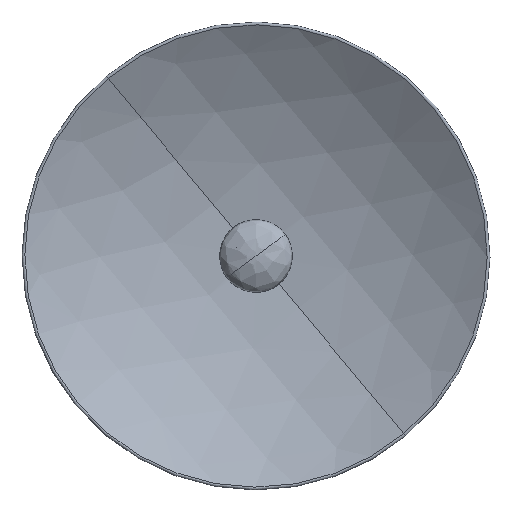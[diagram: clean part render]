
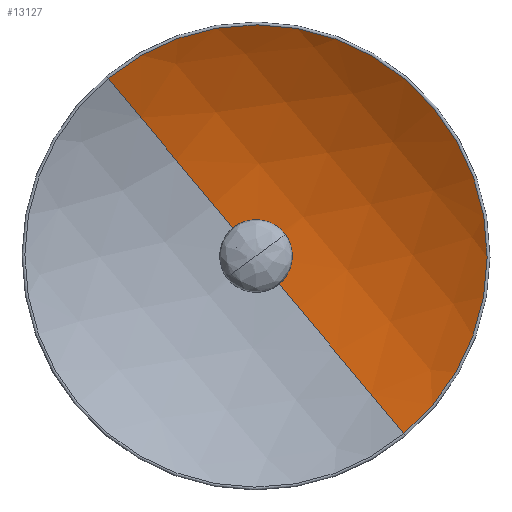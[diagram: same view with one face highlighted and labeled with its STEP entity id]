
A CAD part, top view. The second image highlights one B-rep face of the part: STEP entity #13127.
In plain terms, the highlighted spherical face has radius 335.802 mm.
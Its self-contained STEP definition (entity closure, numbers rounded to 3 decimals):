
#282 = VERTEX_POINT ( 'NONE', #34717 ) ;
#3503 = VERTEX_POINT ( 'NONE', #47333 ) ;
#3771 = AXIS2_PLACEMENT_3D ( 'NONE', #34392, #62702, #91031 ) ;
#4232 = ORIENTED_EDGE ( 'NONE', *, *, #48347, .T. ) ;
#4711 = CARTESIAN_POINT ( 'NONE',  ( 0., 0., 260.502 ) ) ;
#7443 = AXIS2_PLACEMENT_3D ( 'NONE', #20731, #90408, #42077 ) ;
#12486 = SPHERICAL_SURFACE ( 'NONE', #77235, 335.802 ) ;
#13127 = ADVANCED_FACE ( 'NONE', ( #39438 ), #12486, .F. ) ;
#14770 = EDGE_CURVE ( 'NONE', #21792, #3503, #84555, .T. ) ;
#15615 = AXIS2_PLACEMENT_3D ( 'NONE', #72975, #51642, #38178 ) ;
#16224 = EDGE_LOOP ( 'NONE', ( #90790, #4232, #19313, #76018, #42482 ) ) ;
#17516 = CIRCLE ( 'NONE', #33842, 335.802 ) ;
#18254 = EDGE_CURVE ( 'NONE', #28934, #21792, #17516, .T. ) ;
#19313 = ORIENTED_EDGE ( 'NONE', *, *, #28651, .F. ) ;
#20095 = CIRCLE ( 'NONE', #3771, 335.802 ) ;
#20731 = CARTESIAN_POINT ( 'NONE',  ( 0., 0., -75.237 ) ) ;
#21792 = VERTEX_POINT ( 'NONE', #83068 ) ;
#28651 = EDGE_CURVE ( 'NONE', #3503, #282, #42345, .T. ) ;
#28934 = VERTEX_POINT ( 'NONE', #42167 ) ;
#30553 = CIRCLE ( 'NONE', #82454, 190.795 ) ;
#32394 = CARTESIAN_POINT ( 'NONE',  ( 0., 0., -15.831 ) ) ;
#33842 = AXIS2_PLACEMENT_3D ( 'NONE', #4711, #84098, #33992 ) ;
#33929 = EDGE_CURVE ( 'NONE', #78970, #28934, #30553, .T. ) ;
#33992 = DIRECTION ( 'NONE',  ( -0.639, 0.769, 0. ) ) ;
#34392 = CARTESIAN_POINT ( 'NONE',  ( 0., 0., 260.502 ) ) ;
#34717 = CARTESIAN_POINT ( 'NONE',  ( -4.156, 4.998, -75.237 ) ) ;
#38178 = DIRECTION ( 'NONE',  ( 0.769, 0.639, 0. ) ) ;
#39438 = FACE_OUTER_BOUND ( 'NONE', #16224, .T. ) ;
#40812 = DIRECTION ( 'NONE',  ( -0.769, -0.639, 0. ) ) ;
#41178 = DIRECTION ( 'NONE',  ( 0.639, -0.769, 0. ) ) ;
#42077 = DIRECTION ( 'NONE',  ( 0.769, 0.639, 0. ) ) ;
#42167 = CARTESIAN_POINT ( 'NONE',  ( 121.983, -146.707, -15.831 ) ) ;
#42345 = CIRCLE ( 'NONE', #15615, 6.5 ) ;
#42482 = ORIENTED_EDGE ( 'NONE', *, *, #18254, .F. ) ;
#47333 = CARTESIAN_POINT ( 'NONE',  ( 4.998, 4.156, -75.237 ) ) ;
#48347 = EDGE_CURVE ( 'NONE', #78970, #282, #20095, .T. ) ;
#51642 = DIRECTION ( 'NONE',  ( 0., 0., 1. ) ) ;
#53829 = CARTESIAN_POINT ( 'NONE',  ( 0., 0., 260.502 ) ) ;
#55202 = DIRECTION ( 'NONE',  ( 0.639, -0.769, 0. ) ) ;
#62702 = DIRECTION ( 'NONE',  ( -0.769, -0.639, 0. ) ) ;
#72975 = CARTESIAN_POINT ( 'NONE',  ( 0., 0., -75.237 ) ) ;
#75517 = DIRECTION ( 'NONE',  ( 0., 0., -1. ) ) ;
#76018 = ORIENTED_EDGE ( 'NONE', *, *, #14770, .F. ) ;
#77235 = AXIS2_PLACEMENT_3D ( 'NONE', #53829, #40812, #55202 ) ;
#78970 = VERTEX_POINT ( 'NONE', #86651 ) ;
#82454 = AXIS2_PLACEMENT_3D ( 'NONE', #32394, #75517, #41178 ) ;
#83068 = CARTESIAN_POINT ( 'NONE',  ( 4.156, -4.998, -75.237 ) ) ;
#84098 = DIRECTION ( 'NONE',  ( 0.769, 0.639, 0. ) ) ;
#84555 = CIRCLE ( 'NONE', #7443, 6.5 ) ;
#86651 = CARTESIAN_POINT ( 'NONE',  ( -121.983, 146.707, -15.831 ) ) ;
#90408 = DIRECTION ( 'NONE',  ( 0., 0., 1. ) ) ;
#90790 = ORIENTED_EDGE ( 'NONE', *, *, #33929, .F. ) ;
#91031 = DIRECTION ( 'NONE',  ( 0.639, -0.769, 0. ) ) ;
